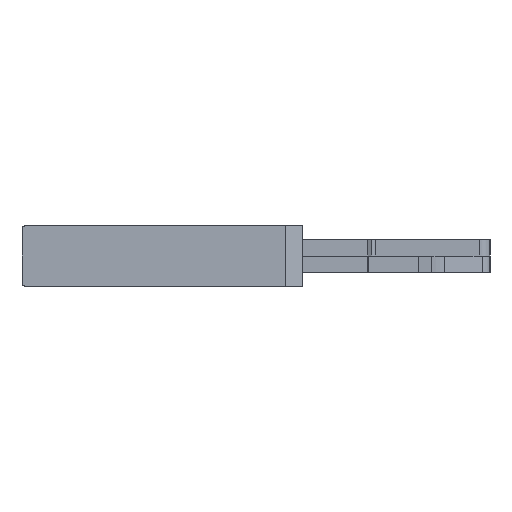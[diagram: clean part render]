
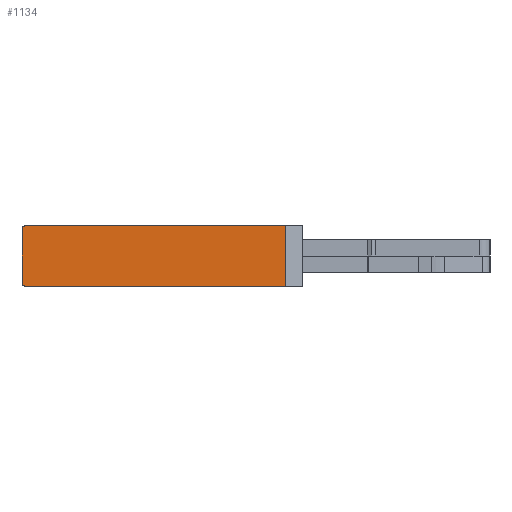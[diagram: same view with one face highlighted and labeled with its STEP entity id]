
A CAD part, left-side view. The second image highlights one B-rep face of the part: STEP entity #1134.
In plain terms, the highlighted planar face has unit normal (-1, 0, 0).
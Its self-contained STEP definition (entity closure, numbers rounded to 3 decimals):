
#618=FACE_OUTER_BOUND('',#4508,.T.);
#1134=ADVANCED_FACE('',(#618),#1515,.T.);
#1515=PLANE('',#11016);
#2536=LINE('',#16406,#3715);
#2620=LINE('',#16575,#3799);
#2621=LINE('',#16577,#3800);
#2622=LINE('',#16581,#3801);
#3715=VECTOR('',#13474,1.);
#3799=VECTOR('',#13578,1.);
#3800=VECTOR('',#13581,1.);
#3801=VECTOR('',#13584,1.);
#4508=EDGE_LOOP('',(#7145,#7146,#7147,#7148,#7149,#7150));
#7145=ORIENTED_EDGE('',*,*,#9844,.T.);
#7146=ORIENTED_EDGE('',*,*,#9845,.T.);
#7147=ORIENTED_EDGE('',*,*,#9846,.T.);
#7148=ORIENTED_EDGE('',*,*,#9847,.T.);
#7149=ORIENTED_EDGE('',*,*,#9759,.F.);
#7150=ORIENTED_EDGE('',*,*,#9843,.F.);
#8367=VERTEX_POINT('',#16407);
#8368=VERTEX_POINT('',#16408);
#8441=VERTEX_POINT('',#16574);
#8442=VERTEX_POINT('',#16578);
#8443=VERTEX_POINT('',#16580);
#8444=VERTEX_POINT('',#16582);
#9759=EDGE_CURVE('',#8367,#8368,#2536,.T.);
#9843=EDGE_CURVE('',#8441,#8367,#2620,.T.);
#9844=EDGE_CURVE('',#8441,#8442,#2621,.T.);
#9845=EDGE_CURVE('',#8442,#8443,#10278,.T.);
#9846=EDGE_CURVE('',#8443,#8444,#2622,.T.);
#9847=EDGE_CURVE('',#8444,#8368,#10279,.T.);
#10278=CIRCLE('',#11014,0.2);
#10279=CIRCLE('',#11015,0.2);
#11014=AXIS2_PLACEMENT_3D('',#16579,#13582,#13583);
#11015=AXIS2_PLACEMENT_3D('',#16583,#13585,#13586);
#11016=AXIS2_PLACEMENT_3D('',#16584,#13587,#13588);
#13474=DIRECTION('',(0.,1.,0.));
#13578=DIRECTION('',(0.,0.,-1.));
#13581=DIRECTION('',(0.,1.,0.));
#13582=DIRECTION('',(-1.,0.,0.));
#13583=DIRECTION('',(0.,0.,1.));
#13584=DIRECTION('',(0.,0.,-1.));
#13585=DIRECTION('',(-1.,0.,0.));
#13586=DIRECTION('',(0.,0.,1.));
#13587=DIRECTION('',(-1.,0.,0.));
#13588=DIRECTION('',(0.,0.,1.));
#16406=CARTESIAN_POINT('',(286.499,193.042,-1.5));
#16407=CARTESIAN_POINT('',(286.499,193.042,-1.5));
#16408=CARTESIAN_POINT('',(286.499,205.776,-1.5));
#16574=CARTESIAN_POINT('',(286.499,193.042,1.5));
#16575=CARTESIAN_POINT('',(286.499,193.042,1.5));
#16577=CARTESIAN_POINT('',(286.499,193.042,1.5));
#16578=CARTESIAN_POINT('',(286.499,205.776,1.5));
#16579=CARTESIAN_POINT('',(286.499,205.776,1.3));
#16580=CARTESIAN_POINT('',(286.499,205.976,1.3));
#16581=CARTESIAN_POINT('',(286.499,205.976,1.5));
#16582=CARTESIAN_POINT('',(286.499,205.976,-1.3));
#16583=CARTESIAN_POINT('',(286.499,205.776,-1.3));
#16584=CARTESIAN_POINT('',(286.499,193.042,1.5));
